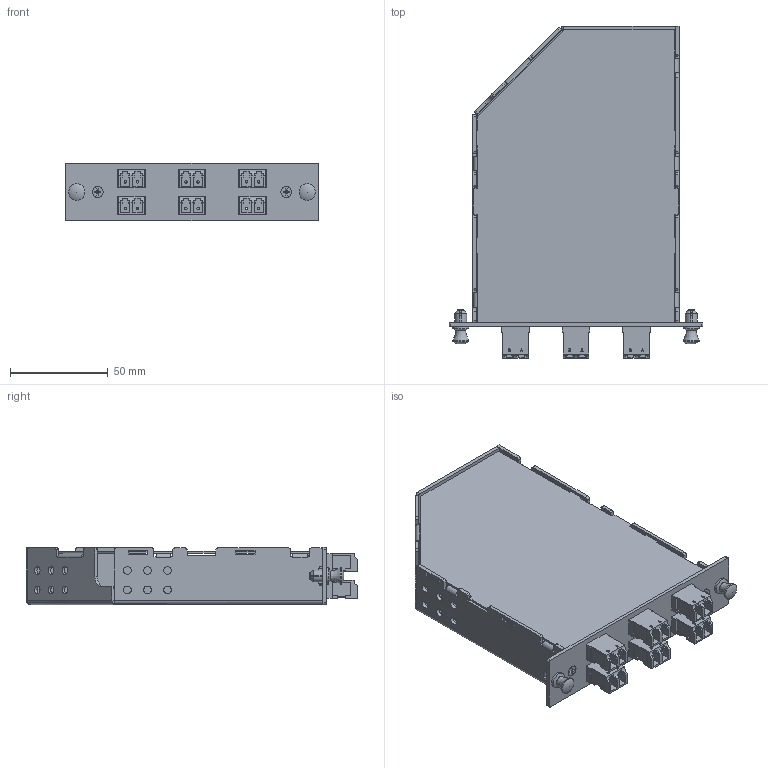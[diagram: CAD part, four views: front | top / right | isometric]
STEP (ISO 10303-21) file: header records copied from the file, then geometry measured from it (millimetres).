
FILE_DESCRIPTION(/* description */ ('STEP AP242','CAx-IF Rec.Pracs.---Representation and Presentation of Product Manufacturing Information (PMI)---4.0---2014-10-13','CAx-IF Rec.Pracs.---3D Tessellated Geometry---0.4---2014-09-14','2;1'),/* implementation_level */ '2;1');
FILE_NAME(/* name */ '68c34011651d714684f233cb',/* time_stamp */ '2025-09-11T21:33:06Z',/* author */ (''),/* organization */ (''),/* preprocessor_version */ 'ST-DEVELOPER v20',/* originating_system */ 'ONSHAPE BY PTC INC, 1.203',/* authorisation */ ' ');
FILE_SCHEMA (('AP242_MANAGED_MODEL_BASED_3D_ENGINEERING_MIM_LF { 1 0 10303 442 1 1 4 }'));
Length unit declared in the file: metre
Products named in the file (16): LGX Splice Tray Cassette - LC Duplex; Adapter Plate; LC Duplex <3>; User Library-Fiber Optic LC Adapters; LC Duplex <4>; LC Duplex <5>; LC Duplex <6>; Mini Snap Latch <1>; Grommet - Mini Snap Latch; Plunger - Mini Snap Latch; LC Duplex <2>; LC Duplex <1>; PH Countersunk flat head screw M3x0.5 x 4; Housing; Mini Snap Latch <2>; Cover
Assembly tree (23 placements, depth 3):
  LGX Splice Tray Cassette - LC Duplex
    Adapter Plate
    LC Duplex <3>
      User Library-Fiber Optic LC Adapters
    LC Duplex <4>
      User Library-Fiber Optic LC Adapters
    LC Duplex <5>
      User Library-Fiber Optic LC Adapters
    LC Duplex <6>
      User Library-Fiber Optic LC Adapters
    Mini Snap Latch <1>
      Grommet - Mini Snap Latch
      Plunger - Mini Snap Latch
    LC Duplex <2>
      User Library-Fiber Optic LC Adapters
    LC Duplex <1>
      User Library-Fiber Optic LC Adapters
    PH Countersunk flat head screw M3x0.5 x 4  x2
    Housing
    Mini Snap Latch <2>
      Grommet - Mini Snap Latch
      Plunger - Mini Snap Latch
    Cover
Bounding box: 130 x 169.9 x 29.3 mm (x, y, z)
Volume: 75098.3 mm3; surface area: 108055.1 mm2
Topology: 15 solids, 15 shells, 1941 faces, 5339 edges, 3480 vertices
Faces by surface type: plane 1583, cylinder 218, bspline 108, cone 30, torus 2
Full cylindrical faces by diameter (mm): 1.27 x12, 2.037 x2, 2.5 x2, 3 x2, 3.2 x2, 3.81 x6, 3.937 x2, 4 x16, 5.5 x2, 5.588 x2, 6.35 x2, 8.382 x4
Entity records: 22299 total; most frequent: CARTESIAN_POINT 4782, ORIENTED_EDGE 3574, DIRECTION 3383, EDGE_CURVE 1787, LINE 1387, VECTOR 1387, VERTEX_POINT 1182, AXIS2_PLACEMENT_3D 998
